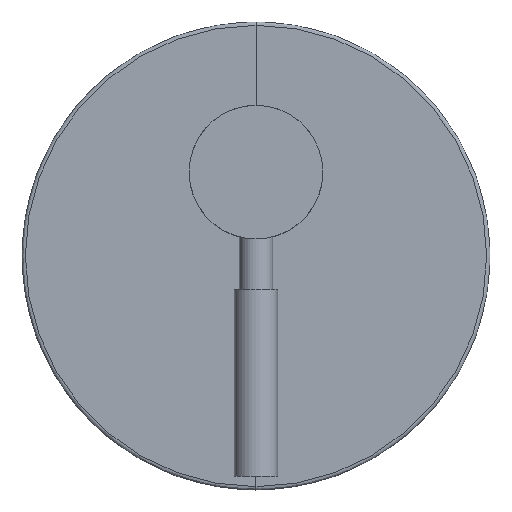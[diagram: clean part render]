
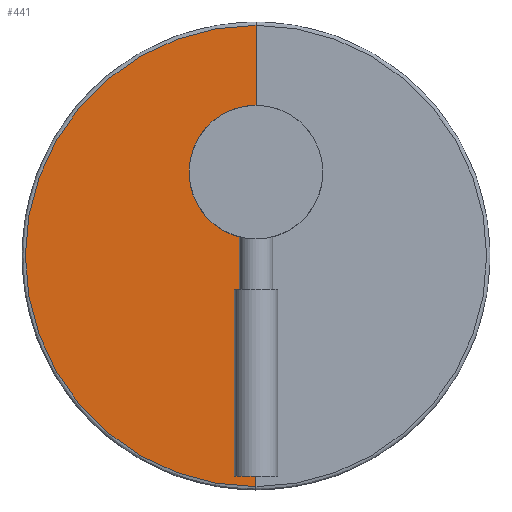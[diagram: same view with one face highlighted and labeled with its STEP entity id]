
A CAD part, top view. The second image highlights one B-rep face of the part: STEP entity #441.
In plain terms, the highlighted planar face has unit normal (0, 0, 1).
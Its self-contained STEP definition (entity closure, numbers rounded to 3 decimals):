
#372 = VERTEX_POINT('',#373);
#373 = CARTESIAN_POINT('',(0.,69.,
    5.));
#380 = EDGE_CURVE('',#381,#372,#383,.T.);
#381 = VERTEX_POINT('',#382);
#382 = CARTESIAN_POINT('',(0.,-69.,
    5.));
#383 = CIRCLE('',#384,69.);
#384 = AXIS2_PLACEMENT_3D('',#385,#386,#387);
#385 = CARTESIAN_POINT('',(0.,0.,
    5.));
#386 = DIRECTION('',(0.,0.,-1.));
#387 = DIRECTION('',(0.,1.,0.));
#441 = ADVANCED_FACE('',(#442),#477,.T.);
#442 = FACE_BOUND('',#443,.T.);
#443 = EDGE_LOOP('',(#444,#445,#453,#462,#471));
#444 = ORIENTED_EDGE('',*,*,#380,.F.);
#445 = ORIENTED_EDGE('',*,*,#446,.T.);
#446 = EDGE_CURVE('',#381,#447,#449,.T.);
#447 = VERTEX_POINT('',#448);
#448 = CARTESIAN_POINT('',(0.,5.,
    5.));
#449 = LINE('',#450,#451);
#450 = CARTESIAN_POINT('',(0.,-69.,
    5.));
#451 = VECTOR('',#452,1.);
#452 = DIRECTION('',(0.,1.,0.));
#453 = ORIENTED_EDGE('',*,*,#454,.T.);
#454 = EDGE_CURVE('',#447,#455,#457,.T.);
#455 = VERTEX_POINT('',#456);
#456 = CARTESIAN_POINT('',(-20.,25.,
    5.));
#457 = CIRCLE('',#458,20.);
#458 = AXIS2_PLACEMENT_3D('',#459,#460,#461);
#459 = CARTESIAN_POINT('',(0.,25.,
    5.));
#460 = DIRECTION('',(0.,0.,-1.));
#461 = DIRECTION('',(1.,0.,0.));
#462 = ORIENTED_EDGE('',*,*,#463,.T.);
#463 = EDGE_CURVE('',#455,#464,#466,.T.);
#464 = VERTEX_POINT('',#465);
#465 = CARTESIAN_POINT('',(0.,45.,
    5.));
#466 = CIRCLE('',#467,20.);
#467 = AXIS2_PLACEMENT_3D('',#468,#469,#470);
#468 = CARTESIAN_POINT('',(0.,25.,
    5.));
#469 = DIRECTION('',(0.,0.,-1.));
#470 = DIRECTION('',(1.,0.,0.));
#471 = ORIENTED_EDGE('',*,*,#472,.T.);
#472 = EDGE_CURVE('',#464,#372,#473,.T.);
#473 = LINE('',#474,#475);
#474 = CARTESIAN_POINT('',(0.,45.,
    5.));
#475 = VECTOR('',#476,1.);
#476 = DIRECTION('',(0.,1.,0.));
#477 = PLANE('',#478);
#478 = AXIS2_PLACEMENT_3D('',#479,#480,#481);
#479 = CARTESIAN_POINT('',(0.,0.,
    5.));
#480 = DIRECTION('',(0.,0.,1.));
#481 = DIRECTION('',(0.,1.,0.));
